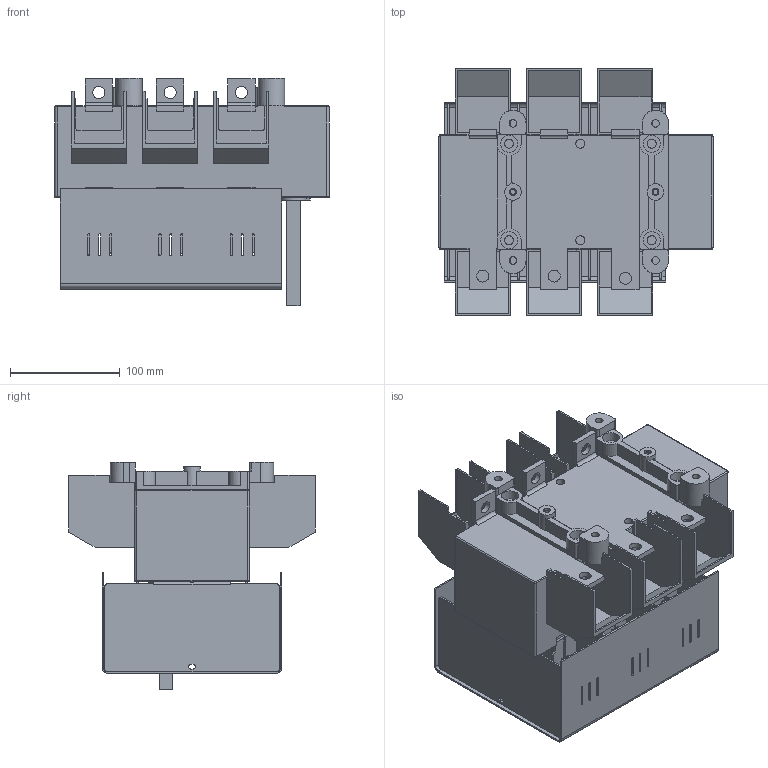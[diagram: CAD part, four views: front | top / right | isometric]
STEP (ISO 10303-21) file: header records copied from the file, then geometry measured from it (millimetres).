
FILE_DESCRIPTION(/* description */ (''),/* implementation_level */ '2;1');
FILE_NAME(/* name */ 'RAB 2 P3 B z oslona zaciskow.stp',/* time_stamp */ '2021-08-19T13:57:35+02:00',/* author */ (''),/* organization */ (''),/* preprocessor_version */ 'ST-DEVELOPER v18.1',/* originating_system */ 'SIEMENS PLM Software NX 1965',/* authorisation */ '');
FILE_SCHEMA (('AUTOMOTIVE_DESIGN { 1 0 10303 214 3 1 1 1 }'));
Length unit declared in the file: millimetre
Products named in the file (1): RAB 2 P3 B z oslona zaciskow_stp
Bounding box: 250 x 225 x 207.3 mm (x, y, z)
Volume: 2552961.3 mm3; surface area: 563482 mm2
Topology: 1 solids, 7 shells, 1287 faces, 3585 edges, 2328 vertices
Faces by surface type: plane 887, cylinder 392, torus 5, bspline 3
Full cylindrical faces by diameter (mm): 4.8 x2, 5.2 x18, 6.2 x2, 7 x4, 8.2 x6, 11 x6, 14 x4, 15 x2, 15.5 x4
Entity records: 41052 total; most frequent: CARTESIAN_POINT 7278, ORIENTED_EDGE 7058, DIRECTION 6911, EDGE_CURVE 3529, LINE 2693, VECTOR 2693, VERTEX_POINT 2320, AXIS2_PLACEMENT_3D 2109
